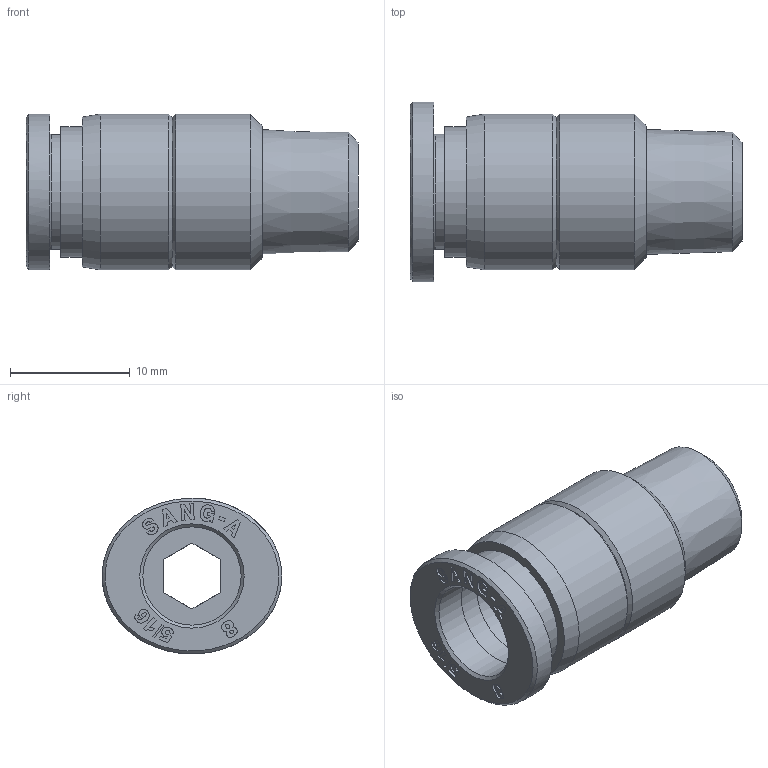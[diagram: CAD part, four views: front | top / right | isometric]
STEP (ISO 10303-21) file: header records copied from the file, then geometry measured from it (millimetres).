
FILE_DESCRIPTION((''),'2;1');
FILE_NAME('C:\Users\user0117\Desktop\김진일\홈페이지\5_16\Internet\GPOC 5_16-N01U.stp','2019-09-18T13:32:34',('user0117'),(''),'Autodesk Inventor 2013','Autodesk Inventor 2013','');
FILE_SCHEMA(('AUTOMOTIVE_DESIGN { 1 0 10303 214 1 1 1 1 }'));
Length unit declared in the file: millimetre
Products named in the file (5): GPOC 5_16-N01U; GPOC BODY 5_16-N01U(BRASS); G-COLLAR 5-16C; COLLAR G08C; SLEEVE G08
Assembly tree (4 placements, depth 3):
  GPOC 5_16-N01U
    GPOC BODY 5_16-N01U(BRASS)
    G-COLLAR 5-16C
      COLLAR G08C
      SLEEVE G08
Bounding box: 27.7 x 14.99 x 13 mm (x, y, z)
Volume: 1944.3 mm3; surface area: 2131.3 mm2
Topology: 3 solids, 3 shells, 392 faces, 1095 edges, 728 vertices
Faces by surface type: plane 348, bspline 20, cylinder 14, cone 10
Full cylindrical faces by diameter (mm): 6.2 x1, 8.2 x3, 9.6 x1, 10.9 x1, 13 x2
Entity records: 12728 total; most frequent: CARTESIAN_POINT 2624, ORIENTED_EDGE 2140, DIRECTION 1897, EDGE_CURVE 1070, VECTOR 987, LINE 987, VERTEX_POINT 722, AXIS2_PLACEMENT_3D 455
